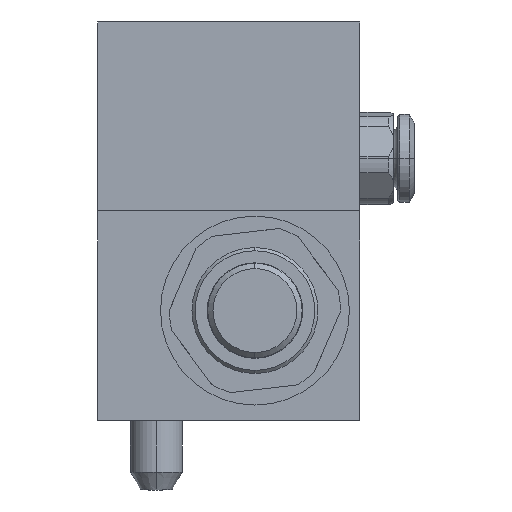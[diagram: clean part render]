
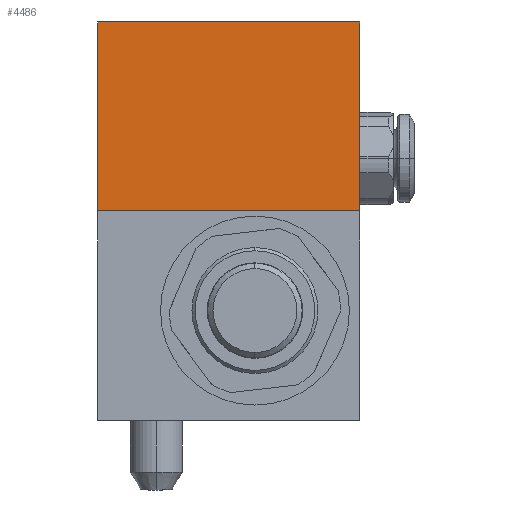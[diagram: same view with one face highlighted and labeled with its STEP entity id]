
A CAD part, front view. The second image highlights one B-rep face of the part: STEP entity #4486.
In plain terms, the highlighted planar face has unit normal (0, -1, 0).
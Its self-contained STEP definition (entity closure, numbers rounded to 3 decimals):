
#88 = LINE ( 'NONE', #7563, #4298 ) ;
#279 = VECTOR ( 'NONE', #3750, 1000. ) ;
#299 = CARTESIAN_POINT ( 'NONE',  ( -25., 0., 20. ) ) ;
#519 = CARTESIAN_POINT ( 'NONE',  ( -25., 0., 20. ) ) ;
#581 = VERTEX_POINT ( 'NONE', #6630 ) ;
#692 = EDGE_CURVE ( 'NONE', #6414, #581, #8319, .T. ) ;
#1329 = DIRECTION ( 'NONE',  ( 1., 0., 0. ) ) ;
#1397 = DIRECTION ( 'NONE',  ( 1., 0., 0. ) ) ;
#1596 = CARTESIAN_POINT ( 'NONE',  ( -25., 0., 20. ) ) ;
#1877 = ORIENTED_EDGE ( 'NONE', *, *, #7705, .F. ) ;
#2575 = PLANE ( 'NONE',  #6225 ) ;
#2700 = LINE ( 'NONE', #10836, #279 ) ;
#3750 = DIRECTION ( 'NONE',  ( 1., 0., 0. ) ) ;
#3803 = VERTEX_POINT ( 'NONE', #3936 ) ;
#3936 = CARTESIAN_POINT ( 'NONE',  ( -25., 0., 38. ) ) ;
#4298 = VECTOR ( 'NONE', #1329, 1000. ) ;
#4486 = ADVANCED_FACE ( 'NONE', ( #9854 ), #2575, .F. ) ;
#4555 = CARTESIAN_POINT ( 'NONE',  ( 0., 0., 20. ) ) ;
#5524 = ORIENTED_EDGE ( 'NONE', *, *, #692, .T. ) ;
#5801 = VECTOR ( 'NONE', #10235, 1000. ) ;
#5997 = EDGE_CURVE ( 'NONE', #12423, #6414, #2700, .T. ) ;
#6225 = AXIS2_PLACEMENT_3D ( 'NONE', #1596, #9783, #1397 ) ;
#6414 = VERTEX_POINT ( 'NONE', #4555 ) ;
#6630 = CARTESIAN_POINT ( 'NONE',  ( 0., 0., 38. ) ) ;
#7563 = CARTESIAN_POINT ( 'NONE',  ( -25., 0., 38. ) ) ;
#7705 = EDGE_CURVE ( 'NONE', #12423, #3803, #8982, .T. ) ;
#8195 = ORIENTED_EDGE ( 'NONE', *, *, #5997, .T. ) ;
#8319 = B_SPLINE_CURVE_WITH_KNOTS ( 'NONE', 1,
 ( #11439, #13433 ),
 .UNSPECIFIED., .F., .F.,
 ( 2, 2 ),
 ( 0., 1. ),
 .UNSPECIFIED. ) ;
#8982 = LINE ( 'NONE', #519, #5801 ) ;
#9783 = DIRECTION ( 'NONE',  ( 0., 1., 0. ) ) ;
#9854 = FACE_OUTER_BOUND ( 'NONE', #11399, .T. ) ;
#10235 = DIRECTION ( 'NONE',  ( 0., 0., 1. ) ) ;
#10836 = CARTESIAN_POINT ( 'NONE',  ( -25., 0., 20. ) ) ;
#11399 = EDGE_LOOP ( 'NONE', ( #8195, #5524, #13360, #1877 ) ) ;
#11439 = CARTESIAN_POINT ( 'NONE',  ( 0., 0., 20. ) ) ;
#11695 = EDGE_CURVE ( 'NONE', #3803, #581, #88, .T. ) ;
#12423 = VERTEX_POINT ( 'NONE', #299 ) ;
#13360 = ORIENTED_EDGE ( 'NONE', *, *, #11695, .F. ) ;
#13433 = CARTESIAN_POINT ( 'NONE',  ( 0., 0., 38. ) ) ;
